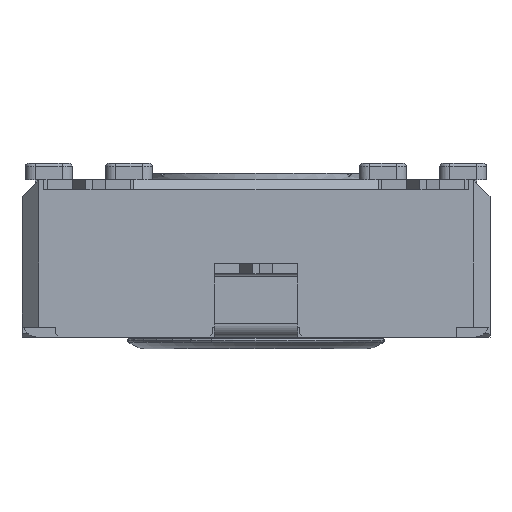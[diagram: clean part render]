
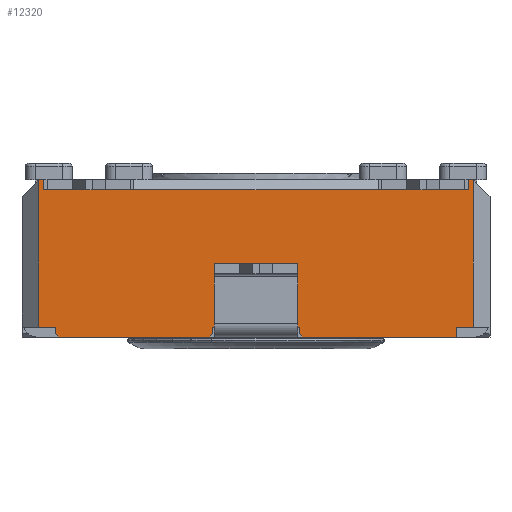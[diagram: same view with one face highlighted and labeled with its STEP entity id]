
A CAD part, front view. The second image highlights one B-rep face of the part: STEP entity #12320.
In plain terms, the highlighted planar face has unit normal (0, -1, 0).
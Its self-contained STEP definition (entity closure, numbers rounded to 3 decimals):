
#188=PLANE('',#13021);
#683=FACE_OUTER_BOUND('',#1347,.T.);
#1347=EDGE_LOOP('',(#8540,#8541,#8542,#8543,#8544,#8545,#8546,#8547,#8548,
#8549,#8550,#8551,#8552,#8553,#8554,#8555,#8556,#8557,#8558,#8559,#8560,
#8561,#8562,#8563,#8564,#8565,#8566));
#2022=LINE('',#17529,#3484);
#2035=LINE('',#17563,#3497);
#2040=LINE('',#17573,#3502);
#2118=LINE('',#17732,#3580);
#2143=LINE('',#17783,#3605);
#2169=LINE('',#17847,#3631);
#2170=LINE('',#17849,#3632);
#2171=LINE('',#17851,#3633);
#2172=LINE('',#17852,#3634);
#2173=LINE('',#17854,#3635);
#2174=LINE('',#17856,#3636);
#2175=LINE('',#17858,#3637);
#2176=LINE('',#17860,#3638);
#2177=LINE('',#17861,#3639);
#2178=LINE('',#17863,#3640);
#2179=LINE('',#17865,#3641);
#2180=LINE('',#17867,#3642);
#2181=LINE('',#17869,#3643);
#2182=LINE('',#17871,#3644);
#2183=LINE('',#17873,#3645);
#2184=LINE('',#17875,#3646);
#2185=LINE('',#17877,#3647);
#2186=LINE('',#17879,#3648);
#2187=LINE('',#17880,#3649);
#2188=LINE('',#17882,#3650);
#2189=LINE('',#17884,#3651);
#2190=LINE('',#17885,#3652);
#3484=VECTOR('',#14042,10.);
#3497=VECTOR('',#14081,10.);
#3502=VECTOR('',#14086,10.);
#3580=VECTOR('',#14188,10.);
#3605=VECTOR('',#14229,10.);
#3631=VECTOR('',#14277,10.);
#3632=VECTOR('',#14278,10.);
#3633=VECTOR('',#14279,10.);
#3634=VECTOR('',#14280,10.);
#3635=VECTOR('',#14281,10.);
#3636=VECTOR('',#14282,10.);
#3637=VECTOR('',#14283,10.);
#3638=VECTOR('',#14284,10.);
#3639=VECTOR('',#14285,10.);
#3640=VECTOR('',#14286,10.);
#3641=VECTOR('',#14287,10.);
#3642=VECTOR('',#14288,10.);
#3643=VECTOR('',#14289,10.);
#3644=VECTOR('',#14290,10.);
#3645=VECTOR('',#14291,10.);
#3646=VECTOR('',#14292,10.);
#3647=VECTOR('',#14293,10.);
#3648=VECTOR('',#14294,10.);
#3649=VECTOR('',#14295,10.);
#3650=VECTOR('',#14296,10.);
#3651=VECTOR('',#14297,10.);
#3652=VECTOR('',#14298,10.);
#5248=VERTEX_POINT('',#17507);
#5256=VERTEX_POINT('',#17528);
#5264=VERTEX_POINT('',#17562);
#5268=VERTEX_POINT('',#17570);
#5269=VERTEX_POINT('',#17572);
#5337=VERTEX_POINT('',#17729);
#5338=VERTEX_POINT('',#17731);
#5355=VERTEX_POINT('',#17780);
#5356=VERTEX_POINT('',#17782);
#5383=VERTEX_POINT('',#17846);
#5384=VERTEX_POINT('',#17848);
#5385=VERTEX_POINT('',#17850);
#5386=VERTEX_POINT('',#17853);
#5387=VERTEX_POINT('',#17855);
#5388=VERTEX_POINT('',#17857);
#5389=VERTEX_POINT('',#17859);
#5390=VERTEX_POINT('',#17862);
#5391=VERTEX_POINT('',#17864);
#5392=VERTEX_POINT('',#17866);
#5393=VERTEX_POINT('',#17868);
#5394=VERTEX_POINT('',#17870);
#5395=VERTEX_POINT('',#17872);
#5396=VERTEX_POINT('',#17874);
#5397=VERTEX_POINT('',#17876);
#5398=VERTEX_POINT('',#17878);
#5399=VERTEX_POINT('',#17881);
#5400=VERTEX_POINT('',#17883);
#6453=EDGE_CURVE('',#5248,#5256,#2022,.T.);
#6470=EDGE_CURVE('',#5264,#5248,#2035,.T.);
#6475=EDGE_CURVE('',#5269,#5268,#2040,.T.);
#6554=EDGE_CURVE('',#5338,#5337,#2118,.T.);
#6579=EDGE_CURVE('',#5356,#5355,#2143,.T.);
#6611=EDGE_CURVE('',#5337,#5383,#2169,.T.);
#6612=EDGE_CURVE('',#5383,#5384,#2170,.T.);
#6613=EDGE_CURVE('',#5384,#5385,#2171,.T.);
#6614=EDGE_CURVE('',#5269,#5385,#2172,.T.);
#6615=EDGE_CURVE('',#5268,#5386,#2173,.T.);
#6616=EDGE_CURVE('',#5387,#5386,#2174,.T.);
#6617=EDGE_CURVE('',#5387,#5388,#2175,.T.);
#6618=EDGE_CURVE('',#5389,#5388,#2176,.T.);
#6619=EDGE_CURVE('',#5264,#5389,#2177,.T.);
#6620=EDGE_CURVE('',#5256,#5390,#2178,.T.);
#6621=EDGE_CURVE('',#5390,#5391,#2179,.T.);
#6622=EDGE_CURVE('',#5392,#5391,#2180,.T.);
#6623=EDGE_CURVE('',#5392,#5393,#2181,.T.);
#6624=EDGE_CURVE('',#5393,#5394,#2182,.T.);
#6625=EDGE_CURVE('',#5394,#5395,#2183,.T.);
#6626=EDGE_CURVE('',#5396,#5395,#2184,.T.);
#6627=EDGE_CURVE('',#5396,#5397,#2185,.T.);
#6628=EDGE_CURVE('',#5397,#5398,#2186,.T.);
#6629=EDGE_CURVE('',#5398,#5356,#2187,.T.);
#6630=EDGE_CURVE('',#5355,#5399,#2188,.T.);
#6631=EDGE_CURVE('',#5400,#5399,#2189,.T.);
#6632=EDGE_CURVE('',#5400,#5338,#2190,.T.);
#8540=ORIENTED_EDGE('',*,*,#6554,.T.);
#8541=ORIENTED_EDGE('',*,*,#6611,.T.);
#8542=ORIENTED_EDGE('',*,*,#6612,.T.);
#8543=ORIENTED_EDGE('',*,*,#6613,.T.);
#8544=ORIENTED_EDGE('',*,*,#6614,.F.);
#8545=ORIENTED_EDGE('',*,*,#6475,.T.);
#8546=ORIENTED_EDGE('',*,*,#6615,.T.);
#8547=ORIENTED_EDGE('',*,*,#6616,.F.);
#8548=ORIENTED_EDGE('',*,*,#6617,.T.);
#8549=ORIENTED_EDGE('',*,*,#6618,.F.);
#8550=ORIENTED_EDGE('',*,*,#6619,.F.);
#8551=ORIENTED_EDGE('',*,*,#6470,.T.);
#8552=ORIENTED_EDGE('',*,*,#6453,.T.);
#8553=ORIENTED_EDGE('',*,*,#6620,.T.);
#8554=ORIENTED_EDGE('',*,*,#6621,.T.);
#8555=ORIENTED_EDGE('',*,*,#6622,.F.);
#8556=ORIENTED_EDGE('',*,*,#6623,.T.);
#8557=ORIENTED_EDGE('',*,*,#6624,.T.);
#8558=ORIENTED_EDGE('',*,*,#6625,.T.);
#8559=ORIENTED_EDGE('',*,*,#6626,.F.);
#8560=ORIENTED_EDGE('',*,*,#6627,.T.);
#8561=ORIENTED_EDGE('',*,*,#6628,.T.);
#8562=ORIENTED_EDGE('',*,*,#6629,.T.);
#8563=ORIENTED_EDGE('',*,*,#6579,.T.);
#8564=ORIENTED_EDGE('',*,*,#6630,.T.);
#8565=ORIENTED_EDGE('',*,*,#6631,.F.);
#8566=ORIENTED_EDGE('',*,*,#6632,.T.);
#12320=ADVANCED_FACE('',(#683),#188,.T.);
#13021=AXIS2_PLACEMENT_3D('',#17845,#14275,#14276);
#14042=DIRECTION('',(1.,0.,0.));
#14081=DIRECTION('',(1.,0.,0.));
#14086=DIRECTION('',(1.,0.,0.));
#14188=DIRECTION('',(-1.,0.,0.));
#14229=DIRECTION('',(-1.,0.,0.));
#14275=DIRECTION('center_axis',(0.,-1.,0.));
#14276=DIRECTION('ref_axis',(0.,0.,-1.));
#14277=DIRECTION('',(-1.,0.,0.));
#14278=DIRECTION('',(0.,0.,1.));
#14279=DIRECTION('',(-1.,0.,0.));
#14280=DIRECTION('',(0.,0.,1.));
#14281=DIRECTION('',(0.,0.,-1.));
#14282=DIRECTION('',(-0.707,0.,0.707));
#14283=DIRECTION('',(1.,0.,0.));
#14284=DIRECTION('',(-0.707,0.,-0.707));
#14285=DIRECTION('',(0.,0.,-1.));
#14286=DIRECTION('',(1.,0.,0.));
#14287=DIRECTION('',(0.,0.,-1.));
#14288=DIRECTION('',(-0.707,0.,0.707));
#14289=DIRECTION('',(1.,0.,0.));
#14290=DIRECTION('',(0.,0.,1.));
#14291=DIRECTION('',(1.,0.,0.));
#14292=DIRECTION('',(0.,0.,-1.));
#14293=DIRECTION('',(-1.,0.,0.));
#14294=DIRECTION('',(0.,0.,-1.));
#14295=DIRECTION('',(-1.,0.,0.));
#14296=DIRECTION('',(-1.,0.,0.));
#14297=DIRECTION('',(1.,0.,0.));
#14298=DIRECTION('',(-1.,0.,0.));
#17507=CARTESIAN_POINT('',(-8.717,-9.898,0.));
#17528=CARTESIAN_POINT('',(-6.217,-9.898,0.));
#17529=CARTESIAN_POINT('',(-14.467,-9.898,0.));
#17562=CARTESIAN_POINT('',(-8.767,-9.898,0.));
#17563=CARTESIAN_POINT('',(-14.467,-9.898,0.));
#17570=CARTESIAN_POINT('',(-13.467,-9.898,0.));
#17572=CARTESIAN_POINT('',(-13.967,-9.898,0.));
#17573=CARTESIAN_POINT('',(-7.245,-9.898,0.));
#17729=CARTESIAN_POINT('',(-13.717,-9.898,4.1));
#17731=CARTESIAN_POINT('',(-11.217,-9.898,4.1));
#17732=CARTESIAN_POINT('',(-6.467,-9.898,4.1));
#17780=CARTESIAN_POINT('',(-3.717,-9.898,4.1));
#17782=CARTESIAN_POINT('',(-1.217,-9.898,4.1));
#17783=CARTESIAN_POINT('',(-1.467,-9.898,4.1));
#17845=CARTESIAN_POINT('Origin',(-0.467,-9.898,0.));
#17846=CARTESIAN_POINT('',(-13.817,-9.898,4.1));
#17847=CARTESIAN_POINT('',(-3.944,-9.898,4.1));
#17848=CARTESIAN_POINT('',(-13.817,-9.898,4.4));
#17849=CARTESIAN_POINT('',(-13.817,-9.898,2.2));
#17850=CARTESIAN_POINT('',(-13.967,-9.898,4.4));
#17851=CARTESIAN_POINT('',(-14.467,-9.898,4.4));
#17852=CARTESIAN_POINT('',(-13.967,-9.898,0.));
#17853=CARTESIAN_POINT('',(-13.467,-9.898,-0.2));
#17854=CARTESIAN_POINT('',(-13.467,-9.898,-0.15));
#17855=CARTESIAN_POINT('',(-13.367,-9.898,-0.3));
#17856=CARTESIAN_POINT('',(-10.242,-9.898,-3.425));
#17857=CARTESIAN_POINT('',(-8.867,-9.898,-0.3));
#17858=CARTESIAN_POINT('',(-0.467,-9.898,-0.3));
#17859=CARTESIAN_POINT('',(-8.767,-9.898,-0.2));
#17860=CARTESIAN_POINT('',(-6.667,-9.898,1.9));
#17861=CARTESIAN_POINT('',(-8.767,-9.898,0.));
#17862=CARTESIAN_POINT('',(-6.167,-9.898,0.));
#17863=CARTESIAN_POINT('',(-14.467,-9.898,0.));
#17864=CARTESIAN_POINT('',(-6.167,-9.898,-0.2));
#17865=CARTESIAN_POINT('',(-6.167,-9.898,0.));
#17866=CARTESIAN_POINT('',(-6.067,-9.898,-0.3));
#17867=CARTESIAN_POINT('',(-4.767,-9.898,-1.6));
#17868=CARTESIAN_POINT('',(-1.467,-9.898,-0.3));
#17869=CARTESIAN_POINT('',(-0.467,-9.898,-0.3));
#17870=CARTESIAN_POINT('',(-1.467,-9.898,0.));
#17871=CARTESIAN_POINT('',(-1.467,-9.898,-0.15));
#17872=CARTESIAN_POINT('',(-0.967,-9.898,0.));
#17873=CARTESIAN_POINT('',(-0.646,-9.898,0.));
#17874=CARTESIAN_POINT('',(-0.967,-9.898,4.4));
#17875=CARTESIAN_POINT('',(-0.967,-9.898,0.));
#17876=CARTESIAN_POINT('',(-1.117,-9.898,4.4));
#17877=CARTESIAN_POINT('',(-14.467,-9.898,4.4));
#17878=CARTESIAN_POINT('',(-1.117,-9.898,4.1));
#17879=CARTESIAN_POINT('',(-1.117,-9.898,2.2));
#17880=CARTESIAN_POINT('',(-1.862,-9.898,4.1));
#17881=CARTESIAN_POINT('',(-3.817,-9.898,4.1));
#17882=CARTESIAN_POINT('',(-1.862,-9.898,4.1));
#17883=CARTESIAN_POINT('',(-11.117,-9.898,4.1));
#17884=CARTESIAN_POINT('',(-3.967,-9.898,4.1));
#17885=CARTESIAN_POINT('',(-3.944,-9.898,4.1));
